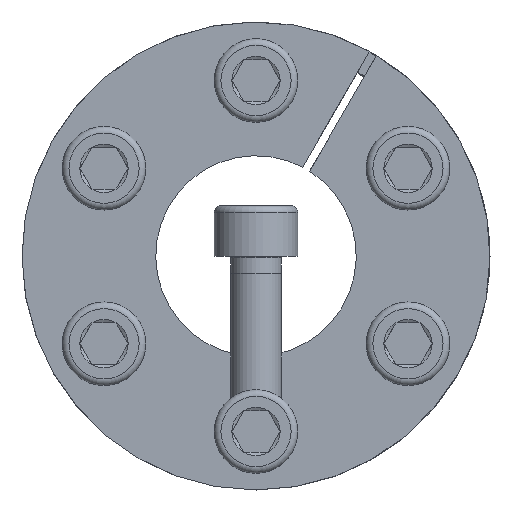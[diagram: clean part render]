
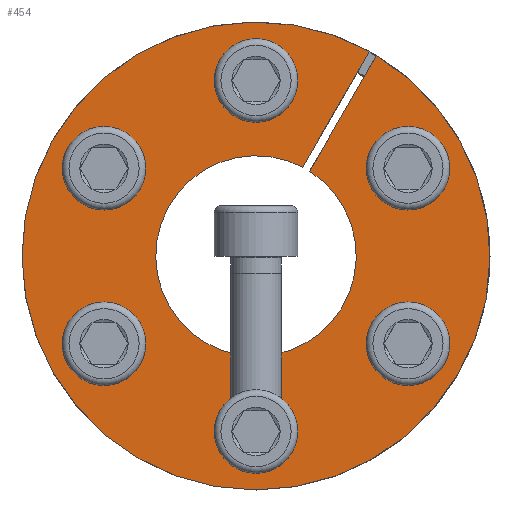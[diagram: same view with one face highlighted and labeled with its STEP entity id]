
A CAD part, front view. The second image highlights one B-rep face of the part: STEP entity #454.
In plain terms, the highlighted planar face has unit normal (0, -1, 0).
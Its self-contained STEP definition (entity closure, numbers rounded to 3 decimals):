
#454 = ADVANCED_FACE( '', ( #800, #801, #802, #803, #804, #805, #806 ), #807, .F. );
#800 = FACE_BOUND( '', #1240, .T. );
#801 = FACE_BOUND( '', #1241, .T. );
#802 = FACE_BOUND( '', #1242, .T. );
#803 = FACE_BOUND( '', #1243, .T. );
#804 = FACE_BOUND( '', #1244, .T. );
#805 = FACE_BOUND( '', #1245, .T. );
#806 = FACE_OUTER_BOUND( '', #1246, .T. );
#807 = PLANE( '', #1247 );
#1240 = EDGE_LOOP( '', ( #1789 ) );
#1241 = EDGE_LOOP( '', ( #1790 ) );
#1242 = EDGE_LOOP( '', ( #1791 ) );
#1243 = EDGE_LOOP( '', ( #1792 ) );
#1244 = EDGE_LOOP( '', ( #1793 ) );
#1245 = EDGE_LOOP( '', ( #1794 ) );
#1246 = EDGE_LOOP( '', ( #1795, #1796, #1797, #1798 ) );
#1247 = AXIS2_PLACEMENT_3D( '', #1799, #1800, #1801 );
#1789 = ORIENTED_EDGE( '', *, *, #2771, .T. );
#1790 = ORIENTED_EDGE( '', *, *, #2772, .T. );
#1791 = ORIENTED_EDGE( '', *, *, #2773, .T. );
#1792 = ORIENTED_EDGE( '', *, *, #2774, .T. );
#1793 = ORIENTED_EDGE( '', *, *, #2775, .T. );
#1794 = ORIENTED_EDGE( '', *, *, #2762, .T. );
#1795 = ORIENTED_EDGE( '', *, *, #2757, .T. );
#1796 = ORIENTED_EDGE( '', *, *, #2763, .T. );
#1797 = ORIENTED_EDGE( '', *, *, #2734, .T. );
#1798 = ORIENTED_EDGE( '', *, *, #2725, .F. );
#1799 = CARTESIAN_POINT( '', ( 0., 0., 28. ) );
#1800 = DIRECTION( '', ( 0., 1., 0. ) );
#1801 = DIRECTION( '', ( 0., 0., 1. ) );
#2725 = EDGE_CURVE( '', #3022, #3018, #3024, .T. );
#2734 = EDGE_CURVE( '', #3041, #3018, #3042, .T. );
#2757 = EDGE_CURVE( '', #3022, #3077, #3079, .T. );
#2762 = EDGE_CURVE( '', #3085, #3085, #3086, .T. );
#2763 = EDGE_CURVE( '', #3077, #3041, #3087, .T. );
#2771 = EDGE_CURVE( '', #3101, #3101, #3102, .T. );
#2772 = EDGE_CURVE( '', #3103, #3103, #3104, .T. );
#2773 = EDGE_CURVE( '', #3105, #3105, #3106, .T. );
#2774 = EDGE_CURVE( '', #3107, #3107, #3108, .T. );
#2775 = EDGE_CURVE( '', #3109, #3109, #3110, .T. );
#3018 = VERTEX_POINT( '', #3407 );
#3022 = VERTEX_POINT( '', #3412 );
#3024 = CIRCLE( '', #3415, 12. );
#3041 = VERTEX_POINT( '', #3440 );
#3042 = LINE( '', #3441, #3442 );
#3077 = VERTEX_POINT( '', #3506 );
#3079 = LINE( '', #3509, #3510 );
#3085 = VERTEX_POINT( '', #3516 );
#3086 = CIRCLE( '', #3517, 3. );
#3087 = CIRCLE( '', #3518, 28. );
#3101 = VERTEX_POINT( '', #3532 );
#3102 = CIRCLE( '', #3533, 3. );
#3103 = VERTEX_POINT( '', #3534 );
#3104 = CIRCLE( '', #3535, 3. );
#3105 = VERTEX_POINT( '', #3536 );
#3106 = CIRCLE( '', #3537, 3. );
#3107 = VERTEX_POINT( '', #3538 );
#3108 = CIRCLE( '', #3539, 3. );
#3109 = VERTEX_POINT( '', #3540 );
#3110 = CIRCLE( '', #3541, 3. );
#3407 = CARTESIAN_POINT( '', ( 6.416, 0., 10.141 ) );
#3412 = CARTESIAN_POINT( '', ( 5.574, 0., 10.627 ) );
#3415 = AXIS2_PLACEMENT_3D( '', #4132, #4133, #4134 );
#3440 = CARTESIAN_POINT( '', ( 14.419, 0., 24.002 ) );
#3441 = CARTESIAN_POINT( '', ( 14.421, 0., 24.006 ) );
#3442 = VECTOR( '', #4149, 1000. );
#3506 = CARTESIAN_POINT( '', ( 13.577, 0., 24.488 ) );
#3509 = CARTESIAN_POINT( '', ( 5.574, 0., 10.627 ) );
#3510 = VECTOR( '', #4174, 1000. );
#3516 = CARTESIAN_POINT( '', ( -16.687, 0., 13.098 ) );
#3517 = AXIS2_PLACEMENT_3D( '', #4187, #4188, #4189 );
#3518 = AXIS2_PLACEMENT_3D( '', #4190, #4191, #4192 );
#3532 = CARTESIAN_POINT( '', ( 3., 0., 21. ) );
#3533 = AXIS2_PLACEMENT_3D( '', #4214, #4215, #4216 );
#3534 = CARTESIAN_POINT( '', ( 19.687, 0., 7.902 ) );
#3535 = AXIS2_PLACEMENT_3D( '', #4217, #4218, #4219 );
#3536 = CARTESIAN_POINT( '', ( 16.687, 0., -13.098 ) );
#3537 = AXIS2_PLACEMENT_3D( '', #4220, #4221, #4222 );
#3538 = CARTESIAN_POINT( '', ( -3., 0., -21. ) );
#3539 = AXIS2_PLACEMENT_3D( '', #4223, #4224, #4225 );
#3540 = CARTESIAN_POINT( '', ( -19.687, 0., -7.902 ) );
#3541 = AXIS2_PLACEMENT_3D( '', #4226, #4227, #4228 );
#4132 = CARTESIAN_POINT( '', ( 0., 0., 0. ) );
#4133 = DIRECTION( '', ( 0., -1., 0. ) );
#4134 = DIRECTION( '', ( 0., 0., -1. ) );
#4149 = DIRECTION( '', ( -0.5, 0., -0.866 ) );
#4174 = DIRECTION( '', ( 0.5, 0., 0.866 ) );
#4187 = CARTESIAN_POINT( '', ( -18.187, 0., 10.5 ) );
#4188 = DIRECTION( '', ( 0., 1., 0. ) );
#4189 = DIRECTION( '', ( 0.5, 0., 0.866 ) );
#4190 = CARTESIAN_POINT( '', ( 0., 0., 0. ) );
#4191 = DIRECTION( '', ( 0., -1., 0. ) );
#4192 = DIRECTION( '', ( 0., 0., -1. ) );
#4214 = CARTESIAN_POINT( '', ( 0., 0., 21. ) );
#4215 = DIRECTION( '', ( 0., 1., 0. ) );
#4216 = DIRECTION( '', ( 1., 0., 0. ) );
#4217 = CARTESIAN_POINT( '', ( 18.187, 0., 10.5 ) );
#4218 = DIRECTION( '', ( 0., 1., 0. ) );
#4219 = DIRECTION( '', ( 0.5, 0., -0.866 ) );
#4220 = CARTESIAN_POINT( '', ( 18.187, 0., -10.5 ) );
#4221 = DIRECTION( '', ( 0., 1., 0. ) );
#4222 = DIRECTION( '', ( -0.5, 0., -0.866 ) );
#4223 = CARTESIAN_POINT( '', ( 0., 0., -21. ) );
#4224 = DIRECTION( '', ( 0., 1., 0. ) );
#4225 = DIRECTION( '', ( -1., 0., 0. ) );
#4226 = CARTESIAN_POINT( '', ( -18.187, 0., -10.5 ) );
#4227 = DIRECTION( '', ( 0., 1., 0. ) );
#4228 = DIRECTION( '', ( -0.5, 0., 0.866 ) );
